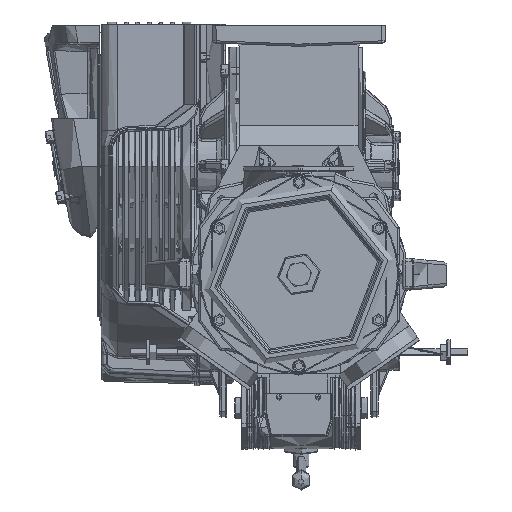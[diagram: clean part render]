
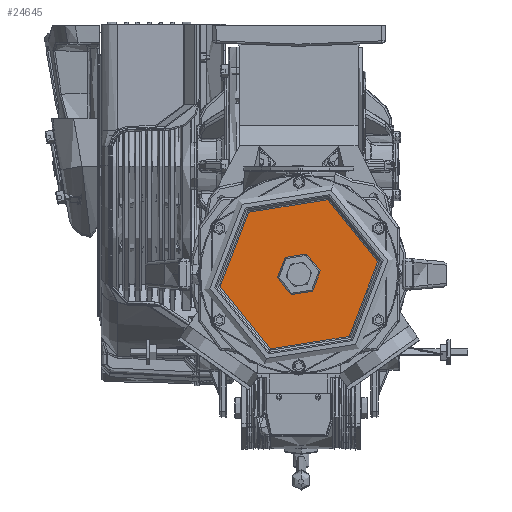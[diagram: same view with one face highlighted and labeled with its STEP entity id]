
A CAD part, front view. The second image highlights one B-rep face of the part: STEP entity #24645.
In plain terms, the highlighted planar face has unit normal (0, -1, 0).
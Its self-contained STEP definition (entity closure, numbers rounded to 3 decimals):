
#1303 = DIRECTION ( 'NONE',  ( 0., -1., 0. ) ) ;
#3925 = AXIS2_PLACEMENT_3D ( 'NONE', #268487, #265158, #14242 ) ;
#14242 = DIRECTION ( 'NONE',  ( -0.358, 0., -0.934 ) ) ;
#16239 = AXIS2_PLACEMENT_3D ( 'NONE', #107420, #77444, #52386 ) ;
#24645 = ADVANCED_FACE ( 'NONE', ( #310604, #81447 ), #283860, .T. ) ;
#32991 = DIRECTION ( 'NONE',  ( 0., -1., 0. ) ) ;
#39908 = VERTEX_POINT ( 'NONE', #118151 ) ;
#52386 = DIRECTION ( 'NONE',  ( -0.358, 0., -0.934 ) ) ;
#52508 = CARTESIAN_POINT ( 'NONE',  ( 77.08, -495.588, -24.434 ) ) ;
#55754 = DIRECTION ( 'NONE',  ( 0., -1., 0. ) ) ;
#60195 = VERTEX_POINT ( 'NONE', #225643 ) ;
#77093 = ORIENTED_EDGE ( 'NONE', *, *, #133919, .T. ) ;
#77444 = DIRECTION ( 'NONE',  ( 0., -1., 0. ) ) ;
#79787 = CARTESIAN_POINT ( 'NONE',  ( 181.647, -495.588, -64.556 ) ) ;
#81447 = FACE_BOUND ( 'NONE', #146272, .T. ) ;
#85100 = EDGE_LOOP ( 'NONE', ( #229406, #77093 ) ) ;
#93774 = CIRCLE ( 'NONE', #307217, 110.757 ) ;
#107420 = CARTESIAN_POINT ( 'NONE',  ( 77.08, -495.588, -24.434 ) ) ;
#118151 = CARTESIAN_POINT ( 'NONE',  ( 66.277, -495.588, -52.589 ) ) ;
#133919 = EDGE_CURVE ( 'NONE', #287221, #250618, #93774, .T. ) ;
#146272 = EDGE_LOOP ( 'NONE', ( #253044, #280222 ) ) ;
#146686 = CARTESIAN_POINT ( 'NONE',  ( 37.403, -495.588, -127.84 ) ) ;
#154426 = DIRECTION ( 'NONE',  ( -0.358, 0., -0.934 ) ) ;
#160348 = CIRCLE ( 'NONE', #16239, 110.757 ) ;
#161626 = DIRECTION ( 'NONE',  ( -0.358, 0., -0.934 ) ) ;
#172745 = EDGE_CURVE ( 'NONE', #39908, #60195, #240251, .T. ) ;
#176239 = AXIS2_PLACEMENT_3D ( 'NONE', #327529, #1303, #200391 ) ;
#180608 = EDGE_CURVE ( 'NONE', #250618, #287221, #160348, .T. ) ;
#200391 = DIRECTION ( 'NONE',  ( -0.358, 0., -0.934 ) ) ;
#225643 = CARTESIAN_POINT ( 'NONE',  ( 87.883, -495.588, 3.721 ) ) ;
#229406 = ORIENTED_EDGE ( 'NONE', *, *, #180608, .T. ) ;
#240251 = CIRCLE ( 'NONE', #176239, 30.156 ) ;
#244184 = CIRCLE ( 'NONE', #3925, 30.156 ) ;
#250618 = VERTEX_POINT ( 'NONE', #146686 ) ;
#253044 = ORIENTED_EDGE ( 'NONE', *, *, #261899, .F. ) ;
#261899 = EDGE_CURVE ( 'NONE', #60195, #39908, #244184, .T. ) ;
#265158 = DIRECTION ( 'NONE',  ( 0., -1., 0. ) ) ;
#268487 = CARTESIAN_POINT ( 'NONE',  ( 77.08, -495.588, -24.434 ) ) ;
#275409 = AXIS2_PLACEMENT_3D ( 'NONE', #79787, #32991, #161626 ) ;
#280222 = ORIENTED_EDGE ( 'NONE', *, *, #172745, .F. ) ;
#283860 = PLANE ( 'NONE',  #275409 ) ;
#287221 = VERTEX_POINT ( 'NONE', #325226 ) ;
#307217 = AXIS2_PLACEMENT_3D ( 'NONE', #52508, #55754, #154426 ) ;
#310604 = FACE_OUTER_BOUND ( 'NONE', #85100, .T. ) ;
#325226 = CARTESIAN_POINT ( 'NONE',  ( 116.758, -495.588, 78.973 ) ) ;
#327529 = CARTESIAN_POINT ( 'NONE',  ( 77.08, -495.588, -24.434 ) ) ;
